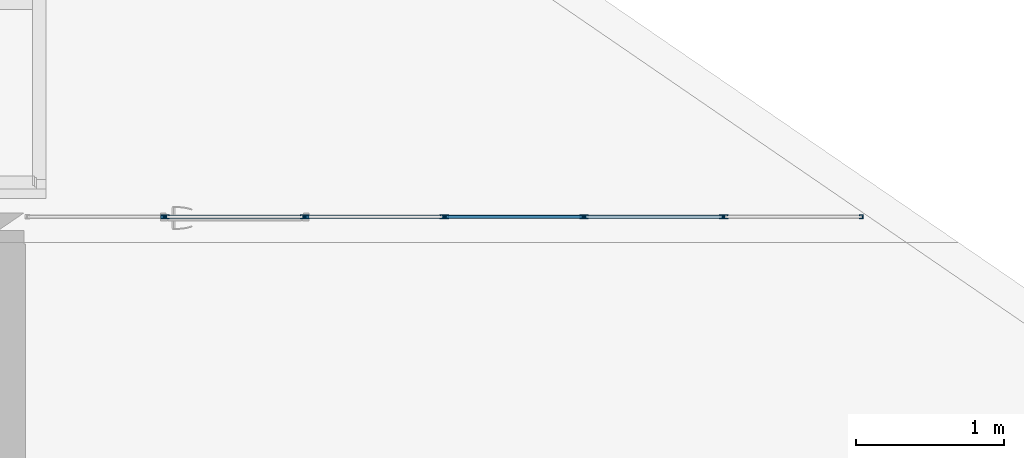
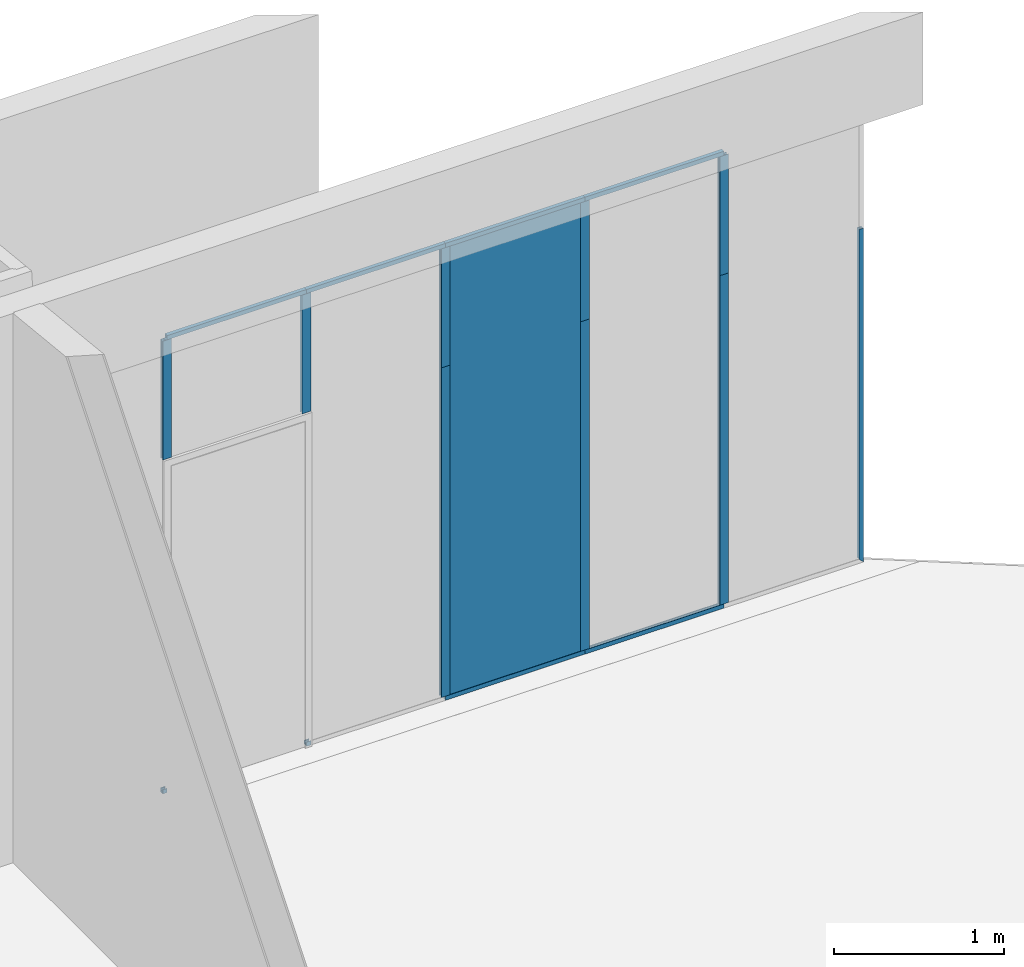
# One storey, part 1 of 23: 17 members, 1 plate, 1 element without a shape of its own.
"""IFC2X3 building model written with IfcOpenShell, lengths in millimetres."""

from ifc_helpers import new_model, entity, si_unit, converted_unit, derived_unit, money_unit, direction, frame, origin_with_axes, place, context, subcontext, project, spatial, faceted_brep, source, transform, mapped, material, material_list, type_object, element, aggregate, save


model = new_model("IFC2X3")

# Units and contexts
model_context = context("Model", 3, precision=0.01, world=origin_with_axes(), true_north=direction((0.0, 1.0)))
body_context = subcontext(model_context, "Body", "Model", "MODEL_VIEW")
ifc_project = project(units=[si_unit("LENGTHUNIT", "METRE", prefix="MILLI"), si_unit("AREAUNIT", "SQUARE_METRE"), si_unit("VOLUMEUNIT", "CUBIC_METRE"), converted_unit("PLANEANGLEUNIT", "DEGREE", entity("IfcPlaneAngleMeasure", 0.0174532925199), si_unit("PLANEANGLEUNIT", "RADIAN"), dimensions=[0, 0, 0, 0, 0, 0, 0]), si_unit("SOLIDANGLEUNIT", "STERADIAN"), money_unit("EUR"), converted_unit("TIMEUNIT", "Year", entity("IfcTimeMeasure", 31556926.0), si_unit("TIMEUNIT", "SECOND"), dimensions=[0, 0, 1, 0, 0, 0, 0]), si_unit("MASSUNIT", "GRAM", prefix="KILO"), si_unit("THERMODYNAMICTEMPERATUREUNIT", "DEGREE_CELSIUS"), si_unit("LUMINOUSINTENSITYUNIT", "LUMEN"), si_unit("ENERGYUNIT", "JOULE", prefix="MEGA"), derived_unit("THERMALCONDUCTANCEUNIT", [(si_unit("POWERUNIT", "WATT"), 1), (si_unit("LENGTHUNIT", "METRE"), -1), (si_unit("THERMODYNAMICTEMPERATUREUNIT", "KELVIN"), -1)]), derived_unit("SPECIFICHEATCAPACITYUNIT", [(si_unit("ENERGYUNIT", "JOULE"), 1), (si_unit("MASSUNIT", "GRAM", prefix="KILO"), -1), (si_unit("THERMODYNAMICTEMPERATUREUNIT", "KELVIN"), -1)]), derived_unit("MASSDENSITYUNIT", [(si_unit("MASSUNIT", "GRAM", prefix="KILO"), 1), (si_unit("VOLUMEUNIT", "CUBIC_METRE"), -1)])], contexts=[model_context])

# Site, building, storey
site_placement = place(None, origin_with_axes())
site = spatial("IfcSite", under=ifc_project, at=site_placement, Name="L.Koidula tn 11b", CompositionType="ELEMENT")
building_placement = place(site_placement, origin_with_axes())
building = spatial("IfcBuilding", under=site, at=building_placement, Name="Rakvere Riigigümnaasium", CompositionType="ELEMENT")
storey_placement = place(building_placement, frame((0.0, 0.0, 7440.0), z_axis=(0.0, 0.0, 1.0), x_axis=(1.0, 0.0, 0.0)))
storey = spatial("IfcBuildingStorey", under=building, at=storey_placement, Name="3.korrus +7,44", CompositionType="ELEMENT", Elevation=7440.0)

# Curtain wall, members, plate
curtain_wall_type = type_object("IfcCurtainWallType", Name="Curtain Wall Type", PredefinedType="NOTDEFINED")
curtain_wall_placement = place(storey_placement, frame((90131.4965427, 13261.4543717, 0.0), z_axis=(0.0, 0.0, 1.0), x_axis=(1.0, 0.0, 0.0)))
curtain_wall = element("IfcCurtainWall", 1, at=curtain_wall_placement, inside=storey, type_object=curtain_wall_type, Name="SKLF-30")
ifc_material_1 = material(Name="Klaasvill")
ifc_material_2 = material(Name="Teras RAL7012")
ifc_material_list = material_list([ifc_material_1, ifc_material_2])
member_type_1 = type_object("IfcMemberType", Name="Siseklaasfassaad-Doubleline-Klaaside vahe-2_60x26 60 x 20", PredefinedType="MULLION")
shared_shape_1 = source(origin_with_axes(), body_context, "Body", "Brep", [
    faceted_brep([(2.00001916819, -16.999999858, 0.0), (8.35001923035, -16.999999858, 0.0), (8.35001923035, -16.999999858, 855.000043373), (2.00001916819, -16.999999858, 855.000043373), (2.00001916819, 3.01614473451, 0.0), (8.35001923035, 3.01614428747, 0.0), (8.35001923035, 3.01614428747, 855.000043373), (2.00001916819, 3.01614473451, 855.000043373)], [[[0, 1, 2, 3]], [[0, 4, 5, 1]], [[1, 5, 6, 2]], [[3, 2, 6, 7]], [[4, 0, 3, 7]], [[5, 4, 7, 6]]]),
    faceted_brep([(28.5126239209, 3.01614444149, 0.0), (24.7344548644, 2.03853257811, 0.0), (24.7344548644, 2.03853257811, 855.000043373), (28.5126239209, 3.01614444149, 855.000043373), (28.7655837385, 2.03853257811, 0.0), (28.4955493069, 1.03075035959, 0.0), (27.75780152, 0.293002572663, 0.0), (26.7500193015, 0.0229681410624, 0.0), (25.742237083, 0.293002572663, 0.0), (25.004489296, 1.03075035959, 0.0), (25.004489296, 1.03075035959, 855.000043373), (25.742237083, 0.293002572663, 855.000043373), (26.7500193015, 0.0229681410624, 855.000043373), (27.75780152, 0.293002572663, 855.000043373), (28.4955493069, 1.03075035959, 855.000043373), (28.7655837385, 2.03853257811, 855.000043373)], [[[0, 1, 2, 3]], [[0, 4, 5, 6, 7, 8, 9, 1]], [[1, 9, 10, 2]], [[3, 2, 10, 11, 12, 13, 14, 15]], [[4, 0, 3, 15]], [[5, 4, 15, 14]], [[6, 5, 14, 13]], [[7, 6, 13, 12]], [[8, 7, 12, 11]], [[9, 8, 11, 10]]]),
    faceted_brep([(-8.35001923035, -16.999999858, 0.0), (-2.00001916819, -16.999999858, 0.0), (-2.00001916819, -16.999999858, 855.000043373), (-8.35001923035, -16.999999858, 855.000043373), (-8.35001923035, 3.01614428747, 0.0), (-2.00001916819, 3.01614428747, 0.0), (-2.00001916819, 3.01614428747, 855.000043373), (-8.35001923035, 3.01614428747, 855.000043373)], [[[0, 1, 2, 3]], [[0, 4, 5, 1]], [[1, 5, 6, 2]], [[3, 2, 6, 7]], [[4, 0, 3, 7]], [[5, 4, 7, 6]]]),
    faceted_brep([(-28.5126239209, 3.01614444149, 0.0), (-28.4955493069, 1.03075035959, 0.0), (-28.4955493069, 1.03075035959, 855.000043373), (-28.5126239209, 3.01614444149, 855.000043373), (-24.987414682, 3.01614444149, 0.0), (-24.7344548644, 2.03853257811, 0.0), (-25.004489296, 1.03075035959, 0.0), (-25.742237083, 0.293002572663, 0.0), (-26.7500193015, 0.0229681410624, 0.0), (-27.75780152, 0.293002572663, 0.0), (-27.75780152, 0.293002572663, 855.000043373), (-26.7500193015, 0.0229681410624, 855.000043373), (-25.742237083, 0.293002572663, 855.000043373), (-25.004489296, 1.03075035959, 855.000043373), (-24.7344548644, 2.03853257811, 855.000043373), (-24.987414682, 3.01614444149, 855.000043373)], [[[0, 1, 2, 3]], [[0, 4, 5, 6, 7, 8, 9, 1]], [[1, 9, 10, 2]], [[3, 2, 10, 11, 12, 13, 14, 15]], [[4, 0, 3, 15]], [[5, 4, 15, 14]], [[6, 5, 14, 13]], [[7, 6, 13, 12]], [[8, 7, 12, 11]], [[9, 8, 11, 10]]]),
    faceted_brep([(0.0, 5.9999997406, 0.0), (0.0, -20.0, 0.0), (0.0, -20.0, 855.000043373), (0.0, 5.9999997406, 855.000043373), (30.0000193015, 5.9999997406, 0.0), (30.0000193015, 3.01614473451, 0.0), (28.5126239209, 3.01614444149, 0.0), (24.987414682, 3.01614444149, 0.0), (8.35001923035, 3.01614428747, 0.0), (2.00001916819, 3.01614473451, 0.0), (2.00001916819, -16.999999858, 0.0), (8.35001923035, -16.999999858, 0.0), (30.0000193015, -16.999999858, 0.0), (30.0000193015, -20.0, 0.0), (30.0000193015, -20.0, 855.000043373), (30.0000193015, -16.999999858, 855.000043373), (8.35001923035, -16.999999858, 855.000043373), (2.00001916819, -16.999999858, 855.000043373), (2.00001916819, 3.01614473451, 855.000043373), (8.35001923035, 3.01614428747, 855.000043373), (24.987414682, 3.01614444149, 855.000043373), (28.5126239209, 3.01614444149, 855.000043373), (30.0000193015, 3.01614473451, 855.000043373), (30.0000193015, 5.9999997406, 855.000043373)], [[[0, 1, 2, 3]], [[0, 4, 5, 6, 7, 8, 9, 10, 11, 12, 13, 1]], [[1, 13, 14, 2]], [[3, 2, 14, 15, 16, 17, 18, 19, 20, 21, 22, 23]], [[4, 0, 3, 23]], [[5, 4, 23, 22]], [[6, 5, 22, 21]], [[7, 6, 21, 20]], [[8, 7, 20, 19]], [[9, 8, 19, 18]], [[10, 9, 18, 17]], [[11, 10, 17, 16]], [[12, 11, 16, 15]], [[13, 12, 15, 14]]]),
    faceted_brep([(0.0, -20.0, 0.0), (0.0, 6.0, 0.0), (0.0, 6.0, 855.000043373), (0.0, -20.0, 855.000043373), (-30.0000193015, -20.0, 0.0), (-30.0000193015, -17.0, 0.0), (-8.35001923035, -16.999999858, 0.0), (-2.00001930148, -17.0, 0.0), (-2.00001930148, 3.01614444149, 0.0), (-8.35001923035, 3.01614428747, 0.0), (-24.987414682, 3.01614444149, 0.0), (-28.5126239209, 3.01614444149, 0.0), (-30.0000193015, 3.01614444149, 0.0), (-30.0000193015, 6.0, 0.0), (-30.0000193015, 6.0, 855.000043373), (-30.0000193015, 3.01614444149, 855.000043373), (-28.5126239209, 3.01614444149, 855.000043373), (-24.987414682, 3.01614444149, 855.000043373), (-8.35001923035, 3.01614428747, 855.000043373), (-2.00001930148, 3.01614444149, 855.000043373), (-2.00001930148, -17.0, 855.000043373), (-8.35001923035, -16.999999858, 855.000043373), (-30.0000193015, -17.0, 855.000043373), (-30.0000193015, -20.0, 855.000043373)], [[[0, 1, 2, 3]], [[0, 4, 5, 6, 7, 8, 9, 10, 11, 12, 13, 1]], [[1, 13, 14, 2]], [[3, 2, 14, 15, 16, 17, 18, 19, 20, 21, 22, 23]], [[4, 0, 3, 23]], [[5, 4, 23, 22]], [[6, 5, 22, 21]], [[7, 6, 21, 20]], [[8, 7, 20, 19]], [[9, 8, 19, 18]], [[10, 9, 18, 17]], [[11, 10, 17, 16]], [[12, 11, 16, 15]], [[13, 12, 15, 14]]]),
])
member_1_placement = place(curtain_wall_placement, frame((473.5, 0.0, 2400.0), z_axis=(0.0, 0.0, 1.0), x_axis=(1.0, 0.0, 0.0)))
member_1 = element("IfcMember", 2, at=member_1_placement, type_object=member_type_1, material=ifc_material_list, Name="Frame-Siseklaasf-059", ObjectType="MULLION", context=body_context, shape_type="MappedRepresentation", body=[
    mapped(shared_shape_1, transform((0.0, 0.0, 0.0))),
])
member_2_placement = place(curtain_wall_placement, frame((-473.5, 0.0, 2400.0), z_axis=(0.0, 0.0, 1.0), x_axis=(1.0, 0.0, 0.0)))
member_2 = element("IfcMember", 3, at=member_2_placement, type_object=member_type_1, material=ifc_material_list, Name="Frame-Siseklaasf-060", ObjectType="MULLION", context=body_context, shape_type="MappedRepresentation", body=[
    mapped(shared_shape_1, transform((0.0, 0.0, 0.0))),
])
member_3_placement = place(curtain_wall_placement, frame((-1420.5, 0.0, 2400.0), z_axis=(0.0, 0.0, 1.0), x_axis=(1.0, 0.0, 0.0)))
member_3 = element("IfcMember", 4, at=member_3_placement, type_object=member_type_1, material=ifc_material_list, Name="Frame-Siseklaasf-054", ObjectType="MULLION", context=body_context, shape_type="MappedRepresentation", body=[
    mapped(shared_shape_1, transform((0.0, 0.0, 0.0))),
])
member_4_placement = place(curtain_wall_placement, frame((-2367.5, 0.0, 2400.0), z_axis=(0.0, 0.0, 1.0), x_axis=(1.0, 0.0, 0.0)))
member_4 = element("IfcMember", 5, at=member_4_placement, type_object=member_type_1, material=ifc_material_list, Name="Frame-Siseklaasf-003", ObjectType="MULLION", context=body_context, shape_type="MappedRepresentation", body=[
    mapped(shared_shape_1, transform((0.0, 0.0, 0.0))),
])
member_5_placement = place(curtain_wall_placement, frame((-3314.5, 0.0, 2400.0), z_axis=(0.0, 0.0, 1.0), x_axis=(1.0, 0.0, 0.0)))
member_5 = element("IfcMember", 6, at=member_5_placement, type_object=member_type_1, material=ifc_material_list, Name="Frame-Siseklaasf-013", ObjectType="MULLION", context=body_context, shape_type="MappedRepresentation", body=[
    mapped(shared_shape_1, transform((0.0, 0.0, 0.0))),
])
member_type_2 = type_object("IfcMemberType", Name="Boundary Frame 30 x 15", PredefinedType="MULLION")
shared_shape_2 = source(origin_with_axes(), body_context, "Body", "Brep", [
    faceted_brep([(-2.00001916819, -16.999999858, 0.0), (-2.00001916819, -16.999999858, 947.0), (-8.35001923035, -16.999999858, 947.0), (-8.35001923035, -16.999999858, 0.0), (-2.00001916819, 3.01614428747, 0.0), (-2.00001916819, 3.01614428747, 947.0), (-8.35001923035, 3.01614428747, 947.0), (-8.35001923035, 3.01614428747, 0.0)], [[[0, 1, 2, 3]], [[4, 5, 1, 0]], [[1, 5, 6, 2]], [[3, 2, 6, 7]], [[0, 3, 7, 4]], [[7, 6, 5, 4]]]),
    faceted_brep([(-24.987414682, 3.01614444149, 0.0), (-24.987414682, 3.01614444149, 947.0), (-25.004489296, 1.03075035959, 947.0), (-25.004489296, 1.03075035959, 0.0), (-28.5126239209, 3.01614444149, 0.0), (-28.5126239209, 3.01614444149, 947.0), (-28.7655837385, 2.03853257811, 947.0), (-28.4955493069, 1.03075035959, 947.0), (-27.75780152, 0.293002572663, 947.0), (-26.7500193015, 0.0229681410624, 947.0), (-25.742237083, 0.293002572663, 947.0), (-25.742237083, 0.293002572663, 0.0), (-26.7500193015, 0.0229681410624, 0.0), (-27.75780152, 0.293002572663, 0.0), (-28.4955493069, 1.03075035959, 0.0), (-28.7655837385, 2.03853257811, 0.0)], [[[0, 1, 2, 3]], [[4, 5, 1, 0]], [[1, 5, 6, 7, 8, 9, 10, 2]], [[3, 2, 10, 11]], [[0, 3, 11, 12, 13, 14, 15, 4]], [[15, 6, 5, 4]], [[14, 7, 6, 15]], [[13, 8, 7, 14]], [[12, 9, 8, 13]], [[11, 10, 9, 12]]]),
    faceted_brep([(0.0, -20.0, 0.0), (0.0, -20.0, 947.0), (-30.0000193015, -20.0, 947.0), (-30.0000193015, -20.0, 0.0), (0.0, 6.0, 0.0), (0.0, 6.0, 947.0), (-30.0000193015, 6.0, 947.0), (-30.0000193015, 3.01614444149, 947.0), (-28.5126239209, 3.01614444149, 947.0), (-24.987414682, 3.01614444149, 947.0), (-8.35001923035, 3.01614428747, 947.0), (-2.00001930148, 3.01614444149, 947.0), (-2.00001930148, -17.0, 947.0), (-8.35001923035, -16.999999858, 947.0), (-30.0000193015, -17.0, 947.0), (-30.0000193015, -17.0, 0.0), (-8.35001923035, -16.999999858, 0.0), (-2.00001930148, -17.0, 0.0), (-2.00001930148, 3.01614444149, 0.0), (-8.35001923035, 3.01614428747, 0.0), (-24.987414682, 3.01614444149, 0.0), (-28.5126239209, 3.01614444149, 0.0), (-30.0000193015, 3.01614444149, 0.0), (-30.0000193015, 6.0, 0.0)], [[[0, 1, 2, 3]], [[4, 5, 1, 0]], [[1, 5, 6, 7, 8, 9, 10, 11, 12, 13, 14, 2]], [[3, 2, 14, 15]], [[0, 3, 15, 16, 17, 18, 19, 20, 21, 22, 23, 4]], [[23, 6, 5, 4]], [[22, 7, 6, 23]], [[21, 8, 7, 22]], [[20, 9, 8, 21]], [[19, 10, 9, 20]], [[18, 11, 10, 19]], [[17, 12, 11, 18]], [[16, 13, 12, 17]], [[15, 14, 13, 16]]]),
])
member_6_placement = place(curtain_wall_placement, frame((473.5, 0.0, 3285.00006267), z_axis=(-1.0, 0.0, 0.0), x_axis=(0.0, 0.0, 1.0)))
member_6 = element("IfcMember", 7, at=member_6_placement, type_object=member_type_2, material=ifc_material_list, Name="P-SKLF-30-raam", ObjectType="MULLION", context=body_context, shape_type="MappedRepresentation", body=[
    mapped(shared_shape_2, transform((0.0, 0.0, 0.0))),
])
member_7_placement = place(curtain_wall_placement, frame((-473.5, 0.0, 3285.00006267), z_axis=(-1.0, 0.0, 0.0), x_axis=(0.0, 0.0, 1.0)))
member_7 = element("IfcMember", 8, at=member_7_placement, type_object=member_type_2, material=ifc_material_list, Name="P-SKLF-29-raam", ObjectType="MULLION", context=body_context, shape_type="MappedRepresentation", body=[
    mapped(shared_shape_2, transform((0.0, 0.0, 0.0))),
])
member_8_placement = place(curtain_wall_placement, frame((-2367.5, 0.0, 3285.00006267), z_axis=(-1.0, 0.0, 0.0), x_axis=(0.0, 0.0, 1.0)))
member_8 = element("IfcMember", 9, at=member_8_placement, type_object=member_type_2, material=ifc_material_list, Name="P-SKLF-27-raam", ObjectType="MULLION", context=body_context, shape_type="MappedRepresentation", body=[
    mapped(shared_shape_2, transform((0.0, 0.0, 0.0))),
])
member_9_placement = place(curtain_wall_placement, frame((-1420.5, 0.0, 3285.00006267), z_axis=(-1.0, 0.0, 0.0), x_axis=(0.0, 0.0, 1.0)))
member_9 = element("IfcMember", 10, at=member_9_placement, type_object=member_type_2, material=ifc_material_list, Name="P-SKLF-35-raam", ObjectType="MULLION", context=body_context, shape_type="MappedRepresentation", body=[
    mapped(shared_shape_2, transform((0.0, 0.0, 0.0))),
])
shared_shape_3 = source(origin_with_axes(), body_context, "Body", "Brep", [
    faceted_brep([(8.35001923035, -16.999999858, 30.0000193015), (8.35001923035, -16.999999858, 2400.0), (2.00001916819, -16.999999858, 2400.0), (2.00001916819, -16.999999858, 30.0000193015), (8.35001923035, 3.01614428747, 30.0000193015), (8.35001923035, 3.01614428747, 2400.0), (2.00001916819, 3.01614473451, 2400.0), (2.00001916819, 3.01614473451, 30.0000193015)], [[[0, 1, 2, 3]], [[4, 5, 1, 0]], [[2, 1, 5, 6]], [[3, 2, 6, 7]], [[3, 7, 4, 0]], [[7, 6, 5, 4]]]),
    faceted_brep([(24.7344548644, 2.03853257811, 30.0000193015), (24.7344548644, 2.03853257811, 2400.0), (28.5126239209, 3.01614444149, 2400.0), (28.5126239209, 3.01614444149, 30.0000193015), (25.004489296, 1.03075035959, 30.0000193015), (25.004489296, 1.03075035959, 2400.0), (25.742237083, 0.293002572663, 2400.0), (26.7500193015, 0.0229681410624, 2400.0), (27.75780152, 0.293002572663, 2400.0), (28.4955493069, 1.03075035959, 2400.0), (28.7655837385, 2.03853257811, 2400.0), (28.7655837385, 2.03853257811, 30.0000193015), (28.4955493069, 1.03075035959, 30.0000193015), (27.75780152, 0.293002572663, 30.0000193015), (26.7500193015, 0.0229681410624, 30.0000193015), (25.742237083, 0.293002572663, 30.0000193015)], [[[0, 1, 2, 3]], [[4, 5, 1, 0]], [[2, 1, 5, 6, 7, 8, 9, 10]], [[3, 2, 10, 11]], [[3, 11, 12, 13, 14, 15, 4, 0]], [[15, 6, 5, 4]], [[14, 7, 6, 15]], [[13, 8, 7, 14]], [[12, 9, 8, 13]], [[11, 10, 9, 12]]]),
    faceted_brep([(-2.00001916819, -16.999999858, 30.0000193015), (-2.00001916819, -16.999999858, 2400.0), (-8.35001923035, -16.999999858, 2400.0), (-8.35001923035, -16.999999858, 30.0000193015), (-2.00001916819, 3.01614428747, 30.0000193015), (-2.00001916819, 3.01614428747, 2400.0), (-8.35001923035, 3.01614428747, 2400.0), (-8.35001923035, 3.01614428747, 30.0000193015)], [[[0, 1, 2, 3]], [[4, 5, 1, 0]], [[2, 1, 5, 6]], [[3, 2, 6, 7]], [[3, 7, 4, 0]], [[7, 6, 5, 4]]]),
    faceted_brep([(-28.4955493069, 1.03075035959, 30.0000193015), (-28.4955493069, 1.03075035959, 2400.0), (-28.5126239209, 3.01614444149, 2400.0), (-28.5126239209, 3.01614444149, 30.0000193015), (-27.75780152, 0.293002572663, 30.0000193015), (-27.75780152, 0.293002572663, 2400.0), (-26.7500193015, 0.0229681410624, 2400.0), (-25.742237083, 0.293002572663, 2400.0), (-25.004489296, 1.03075035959, 2400.0), (-24.7344548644, 2.03853257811, 2400.0), (-24.987414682, 3.01614444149, 2400.0), (-24.987414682, 3.01614444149, 30.0000193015), (-24.7344548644, 2.03853257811, 30.0000193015), (-25.004489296, 1.03075035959, 30.0000193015), (-25.742237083, 0.293002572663, 30.0000193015), (-26.7500193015, 0.0229681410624, 30.0000193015)], [[[0, 1, 2, 3]], [[4, 5, 1, 0]], [[2, 1, 5, 6, 7, 8, 9, 10]], [[3, 2, 10, 11]], [[3, 11, 12, 13, 14, 15, 4, 0]], [[15, 6, 5, 4]], [[14, 7, 6, 15]], [[13, 8, 7, 14]], [[12, 9, 8, 13]], [[11, 10, 9, 12]]]),
    faceted_brep([(0.0, -20.0, 30.0000193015), (0.0, -20.0, 2400.0), (0.0, 5.9999997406, 2400.0), (0.0, 5.9999997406, 30.0000193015), (30.0000193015, -20.0, 30.0000193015), (30.0000193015, -20.0, 2400.0), (30.0000193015, -16.999999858, 2400.0), (8.35001923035, -16.999999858, 2400.0), (2.00001916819, -16.999999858, 2400.0), (2.00001916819, 3.01614473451, 2400.0), (8.35001923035, 3.01614428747, 2400.0), (24.987414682, 3.01614444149, 2400.0), (28.5126239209, 3.01614444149, 2400.0), (30.0000193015, 3.01614473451, 2400.0), (30.0000193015, 5.9999997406, 2400.0), (30.0000193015, 5.9999997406, 30.0000193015), (30.0000193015, 3.01614473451, 30.0000193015), (28.5126239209, 3.01614444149, 30.0000193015), (24.987414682, 3.01614444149, 30.0000193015), (8.35001923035, 3.01614428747, 30.0000193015), (2.00001916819, 3.01614473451, 30.0000193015), (2.00001916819, -16.999999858, 30.0000193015), (8.35001923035, -16.999999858, 30.0000193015), (30.0000193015, -16.999999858, 30.0000193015)], [[[0, 1, 2, 3]], [[4, 5, 1, 0]], [[2, 1, 5, 6, 7, 8, 9, 10, 11, 12, 13, 14]], [[3, 2, 14, 15]], [[3, 15, 16, 17, 18, 19, 20, 21, 22, 23, 4, 0]], [[23, 6, 5, 4]], [[22, 7, 6, 23]], [[21, 8, 7, 22]], [[20, 9, 8, 21]], [[19, 10, 9, 20]], [[18, 11, 10, 19]], [[17, 12, 11, 18]], [[16, 13, 12, 17]], [[15, 14, 13, 16]]]),
    faceted_brep([(0.0, 6.0, 30.0000193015), (0.0, 6.0, 2400.0), (0.0, -20.0, 2400.0), (0.0, -20.0, 30.0000193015), (-30.0000193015, 6.0, 30.0000193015), (-30.0000193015, 6.0, 2400.0), (-30.0000193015, 3.01614444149, 2400.0), (-28.5126239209, 3.01614444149, 2400.0), (-24.987414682, 3.01614444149, 2400.0), (-8.35001923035, 3.01614428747, 2400.0), (-2.00001930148, 3.01614444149, 2400.0), (-2.00001930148, -17.0, 2400.0), (-8.35001923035, -16.999999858, 2400.0), (-30.0000193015, -17.0, 2400.0), (-30.0000193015, -20.0, 2400.0), (-30.0000193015, -20.0, 30.0000193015), (-30.0000193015, -17.0, 30.0000193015), (-8.35001923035, -16.999999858, 30.0000193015), (-2.00001930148, -17.0, 30.0000193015), (-2.00001930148, 3.01614444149, 30.0000193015), (-8.35001923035, 3.01614428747, 30.0000193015), (-24.987414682, 3.01614444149, 30.0000193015), (-28.5126239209, 3.01614444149, 30.0000193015), (-30.0000193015, 3.01614444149, 30.0000193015)], [[[0, 1, 2, 3]], [[4, 5, 1, 0]], [[2, 1, 5, 6, 7, 8, 9, 10, 11, 12, 13, 14]], [[3, 2, 14, 15]], [[3, 15, 16, 17, 18, 19, 20, 21, 22, 23, 4, 0]], [[23, 6, 5, 4]], [[22, 7, 6, 23]], [[21, 8, 7, 22]], [[20, 9, 8, 21]], [[19, 10, 9, 20]], [[18, 11, 10, 19]], [[17, 12, 11, 18]], [[16, 13, 12, 17]], [[15, 14, 13, 16]]]),
])
member_10_placement = place(curtain_wall_placement, frame((473.5, 0.0, 0.0), z_axis=(0.0, 0.0, 1.0), x_axis=(1.0, 0.0, 0.0)))
member_10 = element("IfcMember", 11, at=member_10_placement, type_object=member_type_1, material=ifc_material_list, Name="Frame-Siseklaasf-057", ObjectType="MULLION", context=body_context, shape_type="MappedRepresentation", body=[
    mapped(shared_shape_3, transform((0.0, 0.0, 0.0))),
])
member_11_placement = place(curtain_wall_placement, frame((-473.5, 0.0, 0.0), z_axis=(0.0, 0.0, 1.0), x_axis=(1.0, 0.0, 0.0)))
member_11 = element("IfcMember", 12, at=member_11_placement, type_object=member_type_1, material=ifc_material_list, Name="Frame-Siseklaasf-058", ObjectType="MULLION", context=body_context, shape_type="MappedRepresentation", body=[
    mapped(shared_shape_3, transform((0.0, 0.0, 0.0))),
])
member_12_placement = place(curtain_wall_placement, frame((-1420.5, 0.0, 0.0), z_axis=(0.0, 0.0, 1.0), x_axis=(1.0, 0.0, 0.0)))
member_12 = element("IfcMember", 13, at=member_12_placement, type_object=member_type_1, material=ifc_material_list, Name="Frame-Siseklaasf-050", ObjectType="MULLION", context=body_context, shape_type="MappedRepresentation", body=[
    mapped(shared_shape_3, transform((0.0, 0.0, 0.0))),
])
shared_shape_4 = source(origin_with_axes(), body_context, "Body", "Brep", [
    faceted_brep([(-8.35001923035, -16.999999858, 8.35001923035), (-2.00001916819, -16.999999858, 2.00001916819), (-2.00001916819, -16.999999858, 2400.0000447), (-8.35001923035, -16.999999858, 2400.0000447), (-8.35001923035, 3.01614428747, 8.35001923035), (-2.00001916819, 3.01614428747, 2.00001916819), (-2.00001916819, 3.01614428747, 2400.0000447), (-8.35001923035, 3.01614428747, 2400.0000447)], [[[0, 1, 2, 3]], [[1, 0, 4, 5]], [[1, 5, 6, 2]], [[2, 6, 7, 3]], [[4, 0, 3, 7]], [[5, 4, 7, 6]]]),
    faceted_brep([(-25.004489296, 1.03075035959, 25.004489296), (-24.987414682, 3.01614444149, 24.987414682), (-24.987414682, 3.01614444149, 2400.0000447), (-25.004489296, 1.03075035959, 2400.0000447), (-25.742237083, 0.293002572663, 25.742237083), (-26.7500193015, 0.0229681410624, 26.7500193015), (-27.75780152, 0.293002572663, 27.75780152), (-28.4955493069, 1.03075035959, 28.4955493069), (-28.7655837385, 2.03853257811, 28.7655837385), (-28.5126239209, 3.01614444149, 28.5126239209), (-28.5126239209, 3.01614444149, 2400.0000447), (-28.7655837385, 2.03853257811, 2400.0000447), (-28.4955493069, 1.03075035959, 2400.0000447), (-27.75780152, 0.293002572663, 2400.0000447), (-26.7500193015, 0.0229681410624, 2400.0000447), (-25.742237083, 0.293002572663, 2400.0000447)], [[[0, 1, 2, 3]], [[1, 0, 4, 5, 6, 7, 8, 9]], [[1, 9, 10, 2]], [[2, 10, 11, 12, 13, 14, 15, 3]], [[4, 0, 3, 15]], [[5, 4, 15, 14]], [[6, 5, 14, 13]], [[7, 6, 13, 12]], [[8, 7, 12, 11]], [[9, 8, 11, 10]]]),
    faceted_brep([(-30.0000193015, -20.0, 30.0000193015), (0.0, -20.0, 0.0), (0.0, -20.0, 2400.0000447), (-30.0000193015, -20.0, 2400.0000447), (-30.0000193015, -17.0, 30.0000193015), (-8.35001923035, -16.999999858, 8.35001923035), (-2.00001930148, -17.0, 2.00001930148), (-2.00001930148, 3.01614444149, 2.00001930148), (-8.35001923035, 3.01614428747, 8.35001923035), (-24.987414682, 3.01614444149, 24.987414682), (-28.5126239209, 3.01614444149, 28.5126239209), (-30.0000193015, 3.01614444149, 30.0000193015), (-30.0000193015, 6.0, 30.0000193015), (0.0, 6.0, 0.0), (0.0, 6.0, 2400.0000447), (-30.0000193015, 6.0, 2400.0000447), (-30.0000193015, 3.01614444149, 2400.0000447), (-28.5126239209, 3.01614444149, 2400.0000447), (-24.987414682, 3.01614444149, 2400.0000447), (-8.35001923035, 3.01614428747, 2400.0000447), (-2.00001930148, 3.01614444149, 2400.0000447), (-2.00001930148, -17.0, 2400.0000447), (-8.35001923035, -16.999999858, 2400.0000447), (-30.0000193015, -17.0, 2400.0000447)], [[[0, 1, 2, 3]], [[1, 0, 4, 5, 6, 7, 8, 9, 10, 11, 12, 13]], [[1, 13, 14, 2]], [[2, 14, 15, 16, 17, 18, 19, 20, 21, 22, 23, 3]], [[4, 0, 3, 23]], [[5, 4, 23, 22]], [[6, 5, 22, 21]], [[7, 6, 21, 20]], [[8, 7, 20, 19]], [[9, 8, 19, 18]], [[10, 9, 18, 17]], [[11, 10, 17, 16]], [[12, 11, 16, 15]], [[13, 12, 15, 14]]]),
])
member_13_placement = place(curtain_wall_placement, frame((1420.5, 0.0, 0.0), z_axis=(0.0, 0.0, 1.0), x_axis=(1.0, 0.0, 0.0)))
member_13 = element("IfcMember", 14, at=member_13_placement, type_object=member_type_2, material=ifc_material_list, Name="P-SKLF-33-raam", ObjectType="MULLION", context=body_context, shape_type="MappedRepresentation", body=[
    mapped(shared_shape_4, transform((0.0, 0.0, 0.0))),
])
shared_shape_5 = source(origin_with_axes(), body_context, "Body", "Brep", [
    faceted_brep([(2.00001916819, -16.999999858, 0.0), (8.35001923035, -16.999999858, 0.0), (8.35001923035, -16.999999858, 947.0), (2.00001916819, -16.999999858, 947.0), (2.00001916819, 3.01614428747, 0.0), (8.35001923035, 3.01614428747, 0.0), (8.35001923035, 3.01614428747, 947.0), (2.00001916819, 3.01614428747, 947.0)], [[[0, 1, 2, 3]], [[0, 4, 5, 1]], [[1, 5, 6, 2]], [[3, 2, 6, 7]], [[4, 0, 3, 7]], [[5, 4, 7, 6]]]),
    faceted_brep([(24.987414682, 3.01614444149, 0.0), (25.004489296, 1.03075035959, 0.0), (25.004489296, 1.03075035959, 947.0), (24.987414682, 3.01614444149, 947.0), (28.5126239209, 3.01614444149, 0.0), (28.7655837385, 2.03853257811, 0.0), (28.4955493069, 1.03075035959, 0.0), (27.75780152, 0.293002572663, 0.0), (26.7500193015, 0.0229681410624, 0.0), (25.742237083, 0.293002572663, 0.0), (25.742237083, 0.293002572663, 947.0), (26.7500193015, 0.0229681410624, 947.0), (27.75780152, 0.293002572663, 947.0), (28.4955493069, 1.03075035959, 947.0), (28.7655837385, 2.03853257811, 947.0), (28.5126239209, 3.01614444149, 947.0)], [[[0, 1, 2, 3]], [[0, 4, 5, 6, 7, 8, 9, 1]], [[1, 9, 10, 2]], [[3, 2, 10, 11, 12, 13, 14, 15]], [[4, 0, 3, 15]], [[5, 4, 15, 14]], [[6, 5, 14, 13]], [[7, 6, 13, 12]], [[8, 7, 12, 11]], [[9, 8, 11, 10]]]),
    faceted_brep([(0.0, -20.0, 0.0), (30.0000193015, -20.0, 0.0), (30.0000193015, -20.0, 947.0), (0.0, -20.0, 947.0), (0.0, 6.0, 0.0), (30.0000193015, 6.0, 0.0), (30.0000193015, 3.01614444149, 0.0), (28.5126239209, 3.01614444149, 0.0), (24.987414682, 3.01614444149, 0.0), (8.35001923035, 3.01614428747, 0.0), (2.00001930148, 3.01614444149, 0.0), (2.00001930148, -17.0, 0.0), (8.35001923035, -16.999999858, 0.0), (30.0000193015, -17.0, 0.0), (30.0000193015, -17.0, 947.0), (8.35001923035, -16.999999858, 947.0), (2.00001930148, -17.0, 947.0), (2.00001930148, 3.01614444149, 947.0), (8.35001923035, 3.01614428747, 947.0), (24.987414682, 3.01614444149, 947.0), (28.5126239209, 3.01614444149, 947.0), (30.0000193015, 3.01614444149, 947.0), (30.0000193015, 6.0, 947.0), (0.0, 6.0, 947.0)], [[[0, 1, 2, 3]], [[0, 4, 5, 6, 7, 8, 9, 10, 11, 12, 13, 1]], [[1, 13, 14, 2]], [[3, 2, 14, 15, 16, 17, 18, 19, 20, 21, 22, 23]], [[4, 0, 3, 23]], [[5, 4, 23, 22]], [[6, 5, 22, 21]], [[7, 6, 21, 20]], [[8, 7, 20, 19]], [[9, 8, 19, 18]], [[10, 9, 18, 17]], [[11, 10, 17, 16]], [[12, 11, 16, 15]], [[13, 12, 15, 14]]]),
])
member_14_placement = place(curtain_wall_placement, frame((473.5, 0.0, 0.0), z_axis=(-1.0, 0.0, 0.0), x_axis=(0.0, 0.0, 1.0)))
member_14 = element("IfcMember", 15, at=member_14_placement, type_object=member_type_2, material=ifc_material_list, Name="P-SKLF-19-raam", ObjectType="MULLION", context=body_context, shape_type="MappedRepresentation", body=[
    mapped(shared_shape_5, transform((0.0, 0.0, 0.0))),
])
member_15_placement = place(curtain_wall_placement, frame((-473.5, 0.0, 0.0), z_axis=(-1.0, 0.0, 0.0), x_axis=(0.0, 0.0, 1.0)))
member_15 = element("IfcMember", 16, at=member_15_placement, type_object=member_type_2, material=ifc_material_list, Name="P-SKLF-20-raam", ObjectType="MULLION", context=body_context, shape_type="MappedRepresentation", body=[
    mapped(shared_shape_5, transform((0.0, 0.0, 0.0))),
])
shared_shape_6 = source(origin_with_axes(), body_context, "Body", "Brep", [
    faceted_brep([(2.00001916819, -16.999999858, 0.0), (8.35001923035, -16.999999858, 0.0), (8.35001923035, -16.999999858, 29.9999934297), (2.00001916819, -16.999999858, 29.9999934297), (2.00001916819, 3.01614428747, 0.0), (8.35001923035, 3.01614428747, 0.0), (8.35001923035, 3.01614428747, 29.9999934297), (2.00001916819, 3.01614428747, 29.9999934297)], [[[0, 1, 2, 3]], [[0, 4, 5, 1]], [[1, 5, 6, 2]], [[3, 2, 6, 7]], [[4, 0, 3, 7]], [[5, 4, 7, 6]]]),
    faceted_brep([(24.987414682, 3.01614444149, 0.0), (25.004489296, 1.03075035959, 0.0), (25.004489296, 1.03075035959, 29.9999934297), (24.987414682, 3.01614444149, 29.9999934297), (28.5126239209, 3.01614444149, 0.0), (28.7655837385, 2.03853257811, 0.0), (28.4955493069, 1.03075035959, 0.0), (27.75780152, 0.293002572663, 0.0), (26.7500193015, 0.0229681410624, 0.0), (25.742237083, 0.293002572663, 0.0), (25.742237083, 0.293002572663, 29.9999934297), (26.7500193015, 0.0229681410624, 29.9999934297), (27.75780152, 0.293002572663, 29.9999934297), (28.4955493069, 1.03075035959, 29.9999934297), (28.7655837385, 2.03853257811, 29.9999934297), (28.5126239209, 3.01614444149, 29.9999934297)], [[[0, 1, 2, 3]], [[0, 4, 5, 6, 7, 8, 9, 1]], [[1, 9, 10, 2]], [[3, 2, 10, 11, 12, 13, 14, 15]], [[4, 0, 3, 15]], [[5, 4, 15, 14]], [[6, 5, 14, 13]], [[7, 6, 13, 12]], [[8, 7, 12, 11]], [[9, 8, 11, 10]]]),
    faceted_brep([(0.0, -20.0, 0.0), (30.0000193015, -20.0, 0.0), (30.0000193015, -20.0, 29.9999934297), (0.0, -20.0, 29.9999934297), (0.0, 6.0, 0.0), (30.0000193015, 6.0, 0.0), (30.0000193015, 3.01614444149, 0.0), (28.5126239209, 3.01614444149, 0.0), (24.987414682, 3.01614444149, 0.0), (8.35001923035, 3.01614428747, 0.0), (2.00001930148, 3.01614444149, 0.0), (2.00001930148, -17.0, 0.0), (8.35001923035, -16.999999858, 0.0), (30.0000193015, -17.0, 0.0), (30.0000193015, -17.0, 29.9999934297), (8.35001923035, -16.999999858, 29.9999934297), (2.00001930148, -17.0, 29.9999934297), (2.00001930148, 3.01614444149, 29.9999934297), (8.35001923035, 3.01614428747, 29.9999934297), (24.987414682, 3.01614444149, 29.9999934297), (28.5126239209, 3.01614444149, 29.9999934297), (30.0000193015, 3.01614444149, 29.9999934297), (30.0000193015, 6.0, 29.9999934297), (0.0, 6.0, 29.9999934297)], [[[0, 1, 2, 3]], [[0, 4, 5, 6, 7, 8, 9, 10, 11, 12, 13, 1]], [[1, 13, 14, 2]], [[3, 2, 14, 15, 16, 17, 18, 19, 20, 21, 22, 23]], [[4, 0, 3, 23]], [[5, 4, 23, 22]], [[6, 5, 22, 21]], [[7, 6, 21, 20]], [[8, 7, 20, 19]], [[9, 8, 19, 18]], [[10, 9, 18, 17]], [[11, 10, 17, 16]], [[12, 11, 16, 15]], [[13, 12, 15, 14]]]),
])
member_16_placement = place(curtain_wall_placement, frame((-2337.50000657, 0.0, 0.0), z_axis=(-1.0, 0.0, 0.0), x_axis=(0.0, 0.0, 1.0)))
member_16 = element("IfcMember", 17, at=member_16_placement, type_object=member_type_2, material=ifc_material_list, Name="P-SKLF-21-raam", ObjectType="MULLION", context=body_context, shape_type="MappedRepresentation", body=[
    mapped(shared_shape_6, transform((0.0, 0.0, 0.0))),
])
member_17_placement = place(curtain_wall_placement, frame((-3314.5, 0.0, 0.0), z_axis=(-1.0, 0.0, 0.0), x_axis=(0.0, 0.0, 1.0)))
member_17 = element("IfcMember", 18, at=member_17_placement, type_object=member_type_2, material=ifc_material_list, Name="P-SKLF-36-raam", ObjectType="MULLION", context=body_context, shape_type="MappedRepresentation", body=[
    mapped(shared_shape_6, transform((0.0, 0.0, 0.0))),
])
ifc_material_3 = material(Name="VKR-05_Klaas")
plate_type = type_object("IfcPlateType", Name="Siseklaasfassaad - Klaas 17 917 x 870 x 0", PredefinedType="CURTAIN_PANEL")
shared_shape_7 = source(origin_with_axes(), body_context, "Body", "Brep", [
    faceted_brep([(931.999965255, 3270.00005635, -15.5), (15.0000063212, 3270.00005635, -15.5), (15.0000063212, 3270.00005635, 1.5), (931.999965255, 3270.00005635, 1.5), (931.999965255, 15.0000063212, -15.5), (15.0000063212, 15.0000063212, -15.5), (15.0000063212, 15.0000063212, 1.5), (931.999965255, 15.0000063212, 1.5)], [[[0, 1, 2, 3]], [[0, 4, 5, 1]], [[1, 5, 6, 2]], [[3, 2, 6, 7]], [[4, 0, 3, 7]], [[5, 4, 7, 6]]]),
])
plate_placement = place(curtain_wall_placement, frame((-947.0, 0.0, 1895.00002089), z_axis=(0.0, 0.0, 1.0), x_axis=(1.0, 0.0, 0.0)))
plate = element("IfcPlate", 19, at=plate_placement, type_object=plate_type, material=ifc_material_3, Name="Panel-Siseklaasf-017", ObjectType="CURTAIN_PANEL", context=body_context, shape_type="MappedRepresentation", body=[
    mapped(shared_shape_7, transform((473.5, 0.0, -1895.00002089), x_axis=(-1.0, 0.0, 0.0), y_axis=(0.0, 0.0, 1.0), z_axis=(0.0, 1.0, 0.0))),
])
aggregate(curtain_wall, [member_13, member_14, member_10, member_15, member_11, member_16, member_12, member_6, member_1, member_7, member_2, member_3, member_8, member_4, member_5, member_9, member_17, plate])

save(model, "model.ifc")
